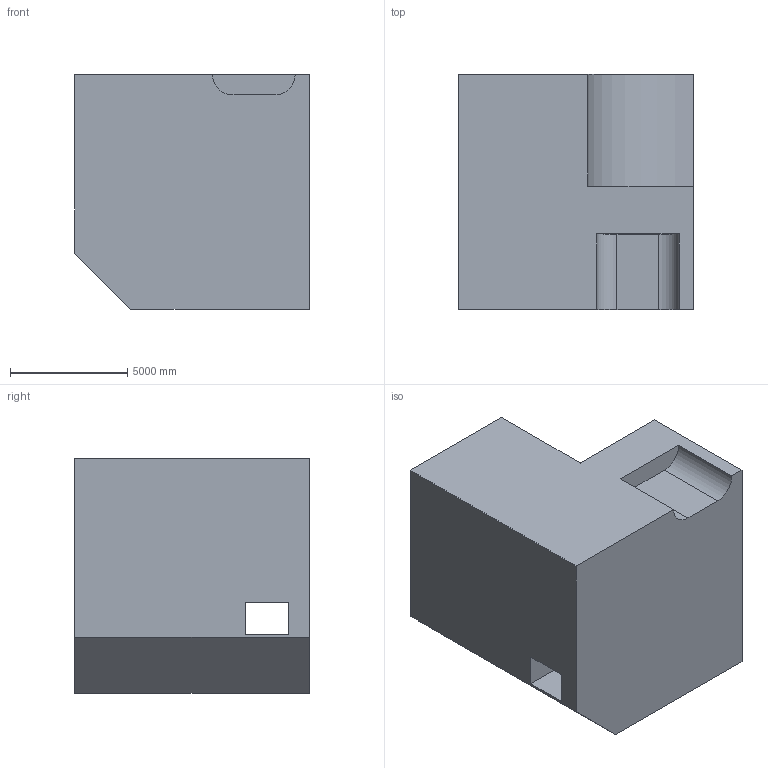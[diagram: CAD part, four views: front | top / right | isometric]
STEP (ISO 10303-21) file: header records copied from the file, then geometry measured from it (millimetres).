
FILE_DESCRIPTION (( 'STEP AP203' ), '1' );
FILE_NAME ('345.STEP', '2022-07-28T14:25:31', ( 'user' ), ( '' ), 'SwSTEP 2.0', 'SolidWorks 2021', '' );
FILE_SCHEMA (( 'CONFIG_CONTROL_DESIGN' ));
Length unit declared in the file: centimetre
Products named in the file (1): 345
Bounding box: 10000 x 10000 x 10000 mm (x, y, z)
Volume: 861294859227.7 mm3; surface area: 633773744.5 mm2
Topology: 1 solids, 1 shells, 17 faces, 45 edges, 30 vertices
Faces by surface type: plane 14, cylinder 3
Entity records: 606 total; most frequent: CARTESIAN_POINT 93, ORIENTED_EDGE 90, DIRECTION 87, EDGE_CURVE 45, VECTOR 39, LINE 39, VERTEX_POINT 30, AXIS2_PLACEMENT_3D 24
